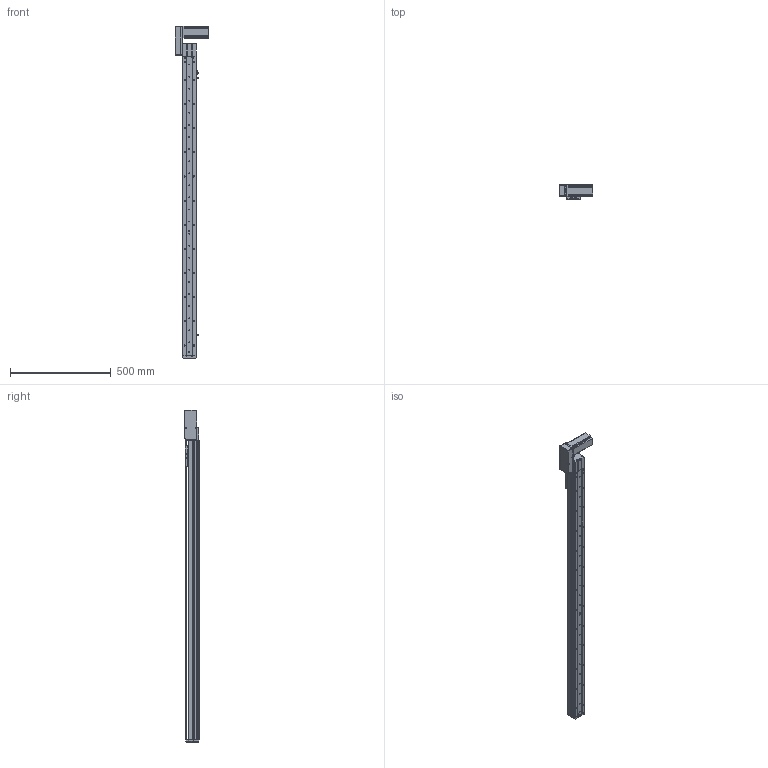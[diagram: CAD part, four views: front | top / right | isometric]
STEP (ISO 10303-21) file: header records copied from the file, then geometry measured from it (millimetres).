
FILE_DESCRIPTION (( 'STEP AP214' ), '1' );
FILE_NAME ('KSD68BS-S1300-MRB-CM.STEP', '2019-08-22T06:16:34', ( '微软用户' ), ( '微软中国' ), 'SwSTEP 2.0', 'SolidWorks 2014', '' );
FILE_SCHEMA (( 'AUTOMOTIVE_DESIGN' ));
Length unit declared in the file: millimetre
Products named in the file (11): 悵誘欶奻狟殏; 68宽马达安装板连板上折同步带; 68宽单导轨半封闭同步带主动轮座右; 68单导轨同步带半封闭端板; KSD68BS 1300俴最裔啣圉猾敕; 覜茼え68遵圉猾敕; KSD68BS半封闭同步带传动导轨座; U倰嫖萇EEㄜSX672; 台达ECMA－C20604AS伺服电机（400W); KSD68BS 1300俴最菁啣圉猾敕; KSD68BS-S1300-MRB-CM
Assembly tree (12 placements, depth 2):
  KSD68BS-S1300-MRB-CM
    KSD68BS 1300俴最菁啣圉猾敕
    台达ECMA－C20604AS伺服电机（400W)
    U倰嫖萇EEㄜSX672  x3
    KSD68BS半封闭同步带传动导轨座
    覜茼え68遵圉猾敕
    KSD68BS 1300俴最裔啣圉猾敕
    68单导轨同步带半封闭端板
    68宽单导轨半封闭同步带主动轮座右
    68宽马达安装板连板上折同步带
    悵誘欶奻狟殏
Bounding box: 167.2 x 70.5 x 1649.5 mm (x, y, z)
Volume: 2748981.4 mm3; surface area: 998621.5 mm2
Topology: 13 solids, 13 shells, 1506 faces, 4380 edges, 2852 vertices
Faces by surface type: cylinder 778, plane 645, cone 83
Entity records: 57529 total; most frequent: CARTESIAN_POINT 11370, ORIENTED_EDGE 7512, DIRECTION 7320, EDGE_CURVE 3756, AXIS2_PLACEMENT_3D 2634, VERTEX_POINT 2476, LINE 2052, VECTOR 2052
